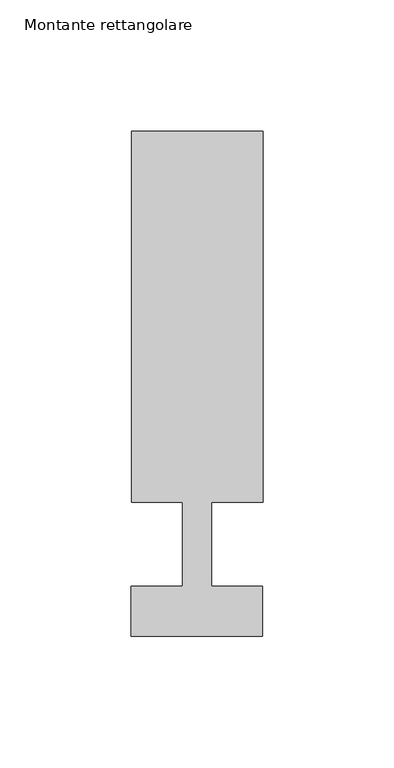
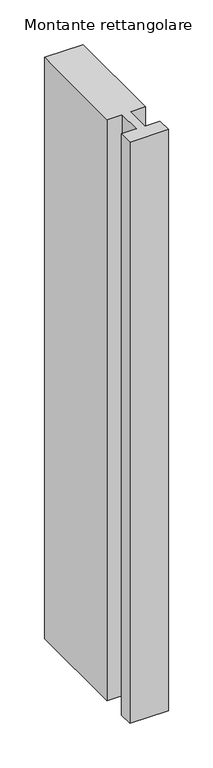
"""IFC4 building model written with IfcOpenShell, lengths in millimetres: member geometry, Montante rettangolare : Aluk_SL50_Montante K733_vetro 32."""

from ifc_helpers import new_model, si_unit, frame, origin, place, context, project, spatial, polyline, outline, extrude, source, transform, mapped, element, save


def montante_rettangolare_7f61ff30(model_context):
    return source(origin(), model_context, "Body", "SweptSolid", [
        extrude(outline(polyline([(-24.9305407, 157.0060769), (25.0694593, 157.0060769), (25.0694593, 15.9966791), (5.5694593, 15.9966791), (5.5694593, -15.9987505), (25.0393298, -15.9987505), (25.0393298, -34.9958572), (-24.9747831, -34.9958572), (-24.9747831, -15.9987505), (-5.4305407, -15.9987505), (-5.4305407, 15.9966791), (-24.9305407, 15.9966791), (-24.9305407, 157.0060769)])), frame((0.0, 0.0, -796.6305407), z_axis=(0.0, 0.0, 1.0), x_axis=(1.0, 0.0, 0.0)), (0.0, 0.0, 1.0), 796.6305407),
    ])


if __name__ == "__main__":
    model = new_model("IFC4")
    model_context = context("Model", 3, world=origin())
    ifc_project = project(units=[si_unit("LENGTHUNIT", "METRE", prefix="MILLI")], contexts=[model_context])
    site = spatial("IfcSite", under=ifc_project)
    building = spatial("IfcBuilding", under=site)
    placement = place(None, origin())
    montante_rettangolare_shape = montante_rettangolare_7f61ff30(model_context)
    element("IfcMember", 1, ObjectType="Montante rettangolare : Aluk_SL50_Montante K733_vetro 32", at=placement, inside=building, context=model_context, shape_type="MappedRepresentation", body=[
        mapped(montante_rettangolare_shape, transform((0.0, 0.0, 0.0), x_axis=(1.0, 0.0, 0.0), y_axis=(0.0, 1.0, 0.0), z_axis=(0.0, 0.0, 1.0))),
    ])
    save(model, "model.ifc")
